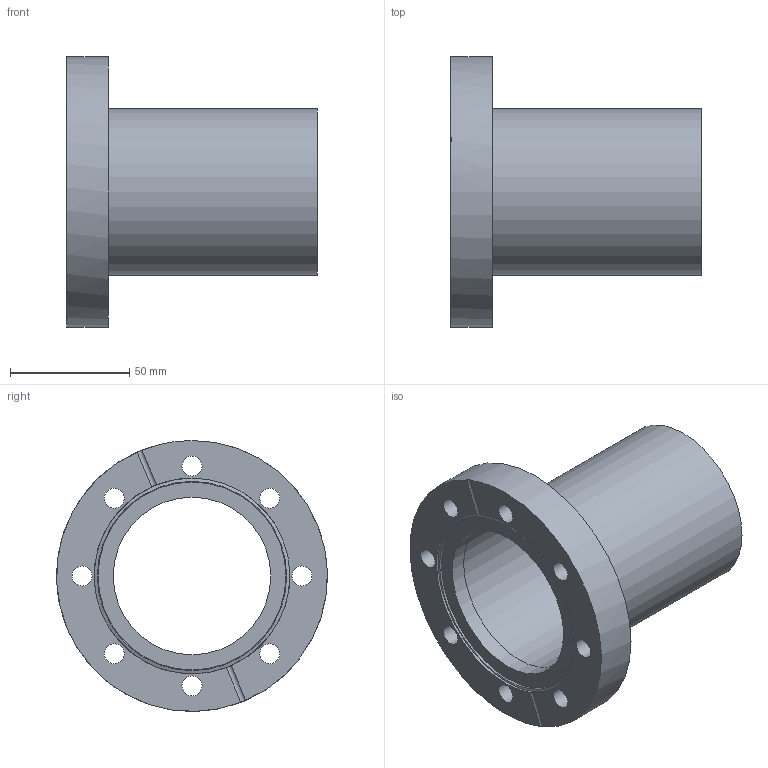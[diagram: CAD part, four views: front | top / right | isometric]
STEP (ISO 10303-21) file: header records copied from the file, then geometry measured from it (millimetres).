
FILE_DESCRIPTION( ( 'Unknown' ), '1' );
FILE_NAME( 'X:/Daten ( aktueller Bestand )/Projekte und Zeichnungen/Solid Edge/STP-Dateien/CF-Teile/7573F4.stp', 'Unknown', ( 'Unknown' ), ( 'Unknown' ), 'PSStep 14.0', 'Unknown', ' ' );
FILE_SCHEMA( ( 'AUTOMOTIVE_DESIGN { 1 0 10303 214 1 1 1 1 }' ) );
Length unit declared in the file: millimetre
Products named in the file (5): 7573F-1; 7513F; Assem1
Assembly tree (4 placements, depth 3):
  Assem1
    7513F
      7513F
    7573F-1
      7573F-1
Bounding box: 105 x 113.5 x 113.5 mm (x, y, z)
Volume: 144282.2 mm3; surface area: 68607.3 mm2
Topology: 2 solids, 2 shells, 25 faces, 58 edges, 38 vertices
Faces by surface type: cylinder 16, plane 7, cone 2
Full cylindrical faces by diameter (mm): 8.4 x8, 66 x2, 70 x1, 70.3 x1, 82 x1, 113.5 x1
Entity records: 1016 total; most frequent: CARTESIAN_POINT 160, DIRECTION 132, ORIENTED_EDGE 80, AXIS2_PLACEMENT_3D 64, EDGE_LOOP 62, EDGE_CURVE 40, FACE_OUTER_BOUND 39, VERTEX_POINT 36
